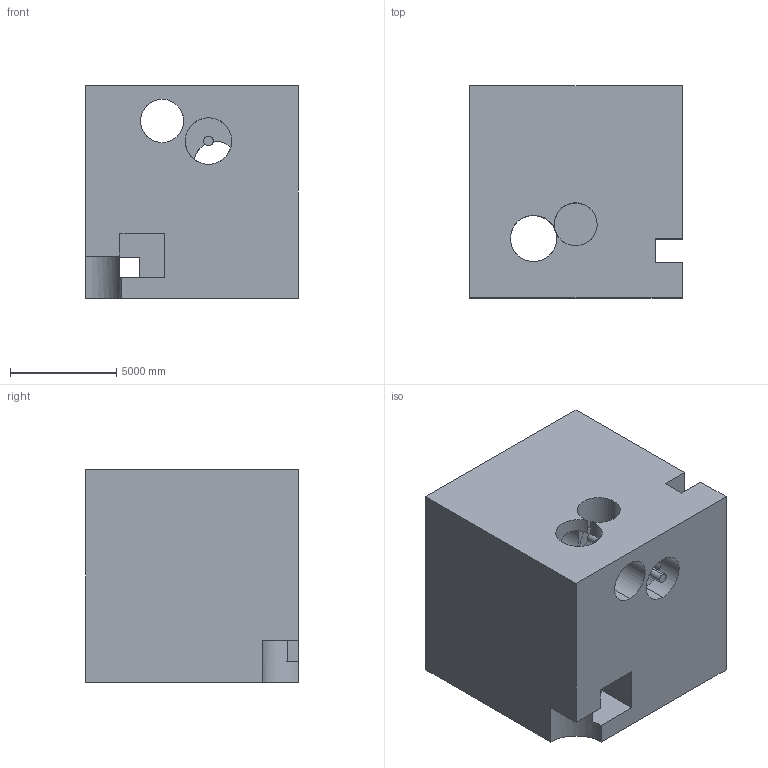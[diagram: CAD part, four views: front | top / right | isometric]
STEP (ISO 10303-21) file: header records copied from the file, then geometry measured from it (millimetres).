
FILE_DESCRIPTION (( 'STEP AP203' ), '1' );
FILE_NAME ('857.STEP', '2022-07-29T13:45:38', ( 'user' ), ( '' ), 'SwSTEP 2.0', 'SolidWorks 2021', '' );
FILE_SCHEMA (( 'CONFIG_CONTROL_DESIGN' ));
Length unit declared in the file: centimetre
Products named in the file (1): 857
Bounding box: 10000 x 10000 x 10000 mm (x, y, z)
Volume: 814225836819.2 mm3; surface area: 864578058.7 mm2
Topology: 1 solids, 1 shells, 49 faces, 162 edges, 108 vertices
Faces by surface type: plane 27, cylinder 22
Entity records: 3493 total; most frequent: CARTESIAN_POINT 1981, ORIENTED_EDGE 324, DIRECTION 281, EDGE_CURVE 162, VERTEX_POINT 108, VECTOR 95, LINE 95, AXIS2_PLACEMENT_3D 93
